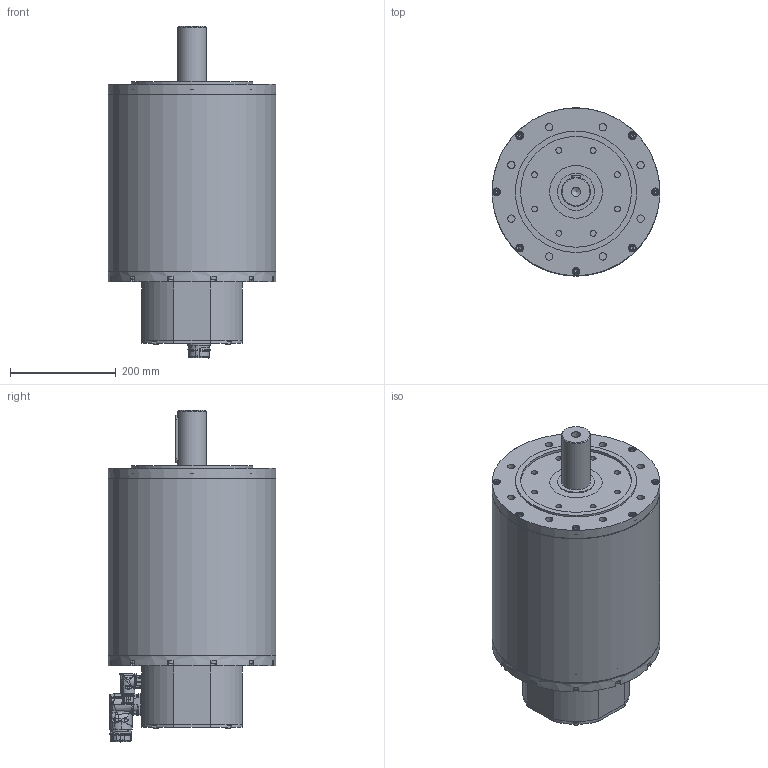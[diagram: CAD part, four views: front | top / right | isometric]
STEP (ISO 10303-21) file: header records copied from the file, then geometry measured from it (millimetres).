
FILE_DESCRIPTION(/* description */ (''),/* implementation_level */ '2;1');
FILE_NAME(/* name */ 'C:\Users\Public\Documents\Autodesk\Inventor LT 2014\Workspace\Motori Sito WEB\TG_8\STEP_DSM5_8x\DSM5_83_x199.stp',/* time_stamp */ '2021-03-31T14:35:43+02:00',/* author */ ('marcor'),/* organization */ (''),/* preprocessor_version */ 'ST-DEVELOPER v15.2',/* originating_system */ 'Autodesk Inventor LT ',/* authorisation */ '');
FILE_SCHEMA (('AUTOMOTIVE_DESIGN { 1 0 10303 214 3 1 1 }'));
Products named in the file (1): DSM5_83_x199
Bounding box: 318 x 318 x 629 mm (x, y, z)
Volume: 33723923.3 mm3; surface area: 1181646.7 mm2
Topology: 29 solids, 36 shells, 1971 faces, 5129 edges, 3360 vertices
Faces by surface type: plane 878, cylinder 417, cone 415, bspline 137, torus 107, sphere 17
Full cylindrical faces by diameter (mm): 1.2 x12, 2 x2, 2.224 x4, 2.5 x4, 2.88 x4, 3.26 x4, 3.6 x5, 4 x5, 4.5 x1, 4.8 x4, 4.917 x16, 5.4 x1, 5.5 x1, 5.9 x1, 6 x16, 6.5 x20, 6.647 x8, 7 x4, 8 x10, 8.5 x1, 9 x7, 10 x16, 10.106 x2, 11 x8, 13 x7, 13.835 x8, 15 x7, 15.2 x1, 17.294 x1, 17.4 x2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
Entity records: 65174 total; most frequent: CARTESIAN_POINT 19240, ORIENTED_EDGE 8984, DIRECTION 8718, EDGE_CURVE 4490, AXIS2_PLACEMENT_3D 3441, VERTEX_POINT 3184, EDGE_LOOP 2666, ADVANCED_FACE 1971
